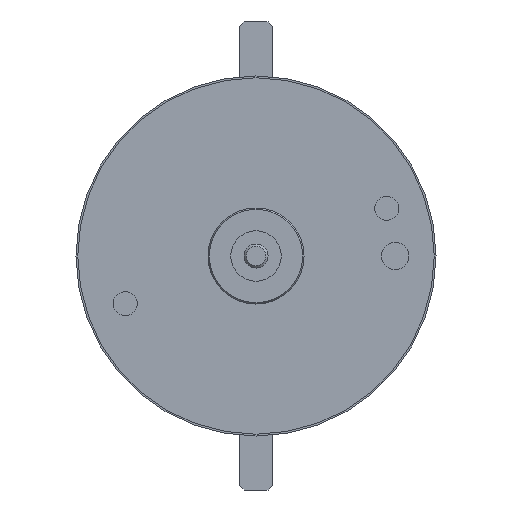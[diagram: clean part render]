
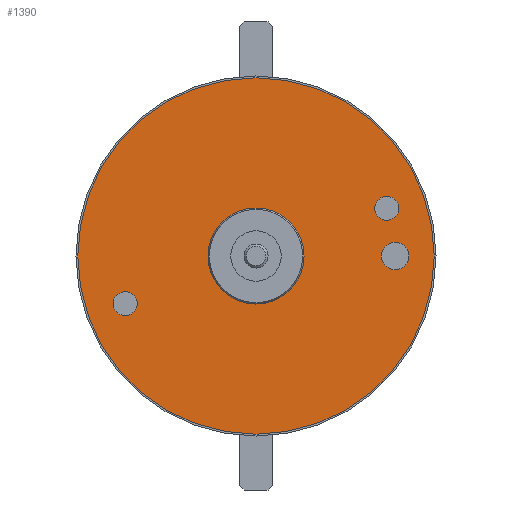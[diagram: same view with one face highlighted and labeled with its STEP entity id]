
A CAD part, left-side view. The second image highlights one B-rep face of the part: STEP entity #1390.
In plain terms, the highlighted planar face has unit normal (-1, 0, 0).
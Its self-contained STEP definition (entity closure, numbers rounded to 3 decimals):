
#1390=ADVANCED_FACE('', (#1400,#1410,#1420,#1430,#1440), #1450, .T.);
#5060=AXIS2_PLACEMENT_3D('Ax2Pl3d', #5070, #5080, #5090);
#5100=AXIS2_PLACEMENT_3D('Ax2Pl3d', #5110, #5120, #5130);
#5140=AXIS2_PLACEMENT_3D('Ax2Pl3d', #5150, #5160, #5170);
#5180=AXIS2_PLACEMENT_3D('Ax2Pl3d', #5190, #5200, #5210);
#5220=AXIS2_PLACEMENT_3D('Ax2Pl3d', #5230, #5240, #5250);
#5260=AXIS2_PLACEMENT_3D('Ax2Pl3d', #5270, #5280, #5290);
#5070=CARTESIAN_POINT('HicPkt', (0.,0.,0.));
#8950=CARTESIAN_POINT('', (0.,-3.759,1.368));
#5110=CARTESIAN_POINT('HicPkt', (0.,13.954,-5.079));
#5150=CARTESIAN_POINT('HicPkt', (0.,0.,0.));
#8960=CARTESIAN_POINT('', (0.,13.954,-5.079));
#5190=CARTESIAN_POINT('HicPkt', (0.,-11.6,
0.));
#8970=CARTESIAN_POINT('', (0.,-11.993,
-1.081));
#5230=CARTESIAN_POINT('HicPkt', (0.,10.9,
-3.967));
#8980=CARTESIAN_POINT('', (0.,10.558,
-4.907));
#5270=CARTESIAN_POINT('HicPkt', (0.,-10.9,3.967));
#8990=CARTESIAN_POINT('', (0.,-11.242,
3.028));
#9640=CIRCLE('Circle', #5060, 4.);
#9650=CIRCLE('Circle', #5140, 14.85);
#9660=CIRCLE('Circle', #5180, 1.15);
#9670=CIRCLE('Circle', #5220, 1.);
#9680=CIRCLE('Circle', #5260, 1.);
#5080=DIRECTION('Axis', (-1.,0.,0.))
;
#5090=DIRECTION('RefDirection', (0.,
0.,-1.));
#5120=DIRECTION('Axis', (-1.,0.,0.)
);
#5130=DIRECTION('RefDirection', (0.,
0.,-1.));
#5160=DIRECTION('Axis', (-1.,0.,0.)
);
#5170=DIRECTION('RefDirection', (0.,
0.,-1.));
#5200=DIRECTION('Axis', (-1.,0.,0.)
);
#5210=DIRECTION('RefDirection', (0.,
0.,-1.));
#5240=DIRECTION('Axis', (-1.,0.,0.)
);
#5250=DIRECTION('RefDirection', (0.,
0.,-1.));
#5280=DIRECTION('Axis', (-1.,0.,0.)
);
#5290=DIRECTION('RefDirection', (0.,
0.,-1.));
#19100=EDGE_CURVE('', #19110, #19110, #9640, .T.);
#19120=EDGE_CURVE('', #19130, #19130, #9650, .T.);
#19140=EDGE_CURVE('', #19150, #19150, #9660, .T.);
#19160=EDGE_CURVE('', #19170, #19170, #9670, .T.);
#19180=EDGE_CURVE('', #19190, #19190, #9680, .T.);
#22620=EDGE_LOOP('Edge_loop', (#22630));
#22640=EDGE_LOOP('Edge_loop', (#22650));
#22660=EDGE_LOOP('Edge_loop', (#22670));
#22680=EDGE_LOOP('Edge_loop', (#22690));
#22700=EDGE_LOOP('Edge_loop', (#22710));
#1410=FACE_BOUND('', #22640, .T.);
#1420=FACE_BOUND('', #22660, .T.);
#1430=FACE_BOUND('', #22680, .T.);
#1440=FACE_BOUND('', #22700, .T.);
#1400=FACE_OUTER_BOUND('Face_outer_bound', #22620, .T.);
#22630=ORIENTED_EDGE('', *, *, #19120, .T.);
#22650=ORIENTED_EDGE('', *, *, #19100, .F.);
#22670=ORIENTED_EDGE('', *, *, #19140, .F.);
#22690=ORIENTED_EDGE('', *, *, #19160, .F.);
#22710=ORIENTED_EDGE('', *, *, #19180, .F.);
#1450=PLANE('Plane', #5100);
#19110=VERTEX_POINT('', #8950);
#19130=VERTEX_POINT('', #8960);
#19150=VERTEX_POINT('', #8970);
#19170=VERTEX_POINT('', #8980);
#19190=VERTEX_POINT('', #8990);
